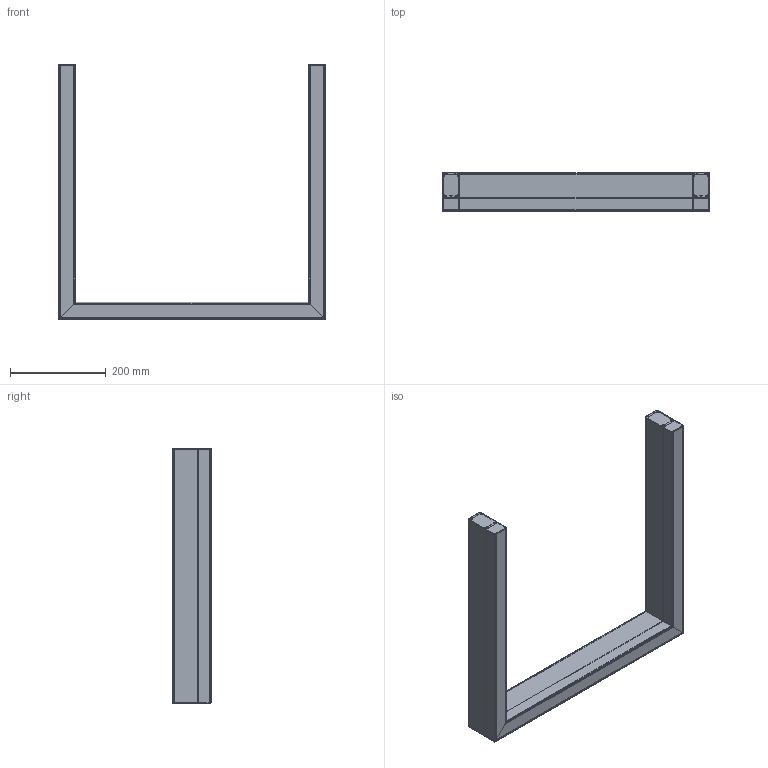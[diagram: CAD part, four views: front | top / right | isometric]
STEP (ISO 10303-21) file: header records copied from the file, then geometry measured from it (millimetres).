
FILE_DESCRIPTION(('STEP AP203'), '1');
FILE_NAME('Ìàòèê Êëàìï 30Âò', '', ('UNSPECIFIED'), ('UNSPECIFIED'), 'ASCON STEP Converter 1.6', 'ASCON Math Kernel', '');
FILE_SCHEMA(('CONFIG_CONTROL_DESIGN'));
Length unit declared in the file: millimetre
Products named in the file (6): -01
Assembly tree (7 placements, depth 3):
  (unnamed)
    (unnamed)
      (unnamed)  x2
    (unnamed)
    -01
      (unnamed)  x2
Bounding box: 556 x 80 x 530.15 mm (x, y, z)
Volume: 625687.4 mm3; surface area: 982729.6 mm2
Topology: 13 solids, 13 shells, 675 faces, 1915 edges, 1280 vertices
Faces by surface type: plane 322, cylinder 315, bspline 16, cone 12, torus 10
Full cylindrical faces by diameter (mm): 2.9 x4, 6.3 x4, 8 x1, 10 x2, 14 x2
Entity records: 21141 total; most frequent: CARTESIAN_POINT 5109, ORIENTED_EDGE 3540, DIRECTION 2898, EDGE_CURVE 1770, VERTEX_POINT 1190, LINE 1108, VECTOR 1108, AXIS2_PLACEMENT_3D 895
